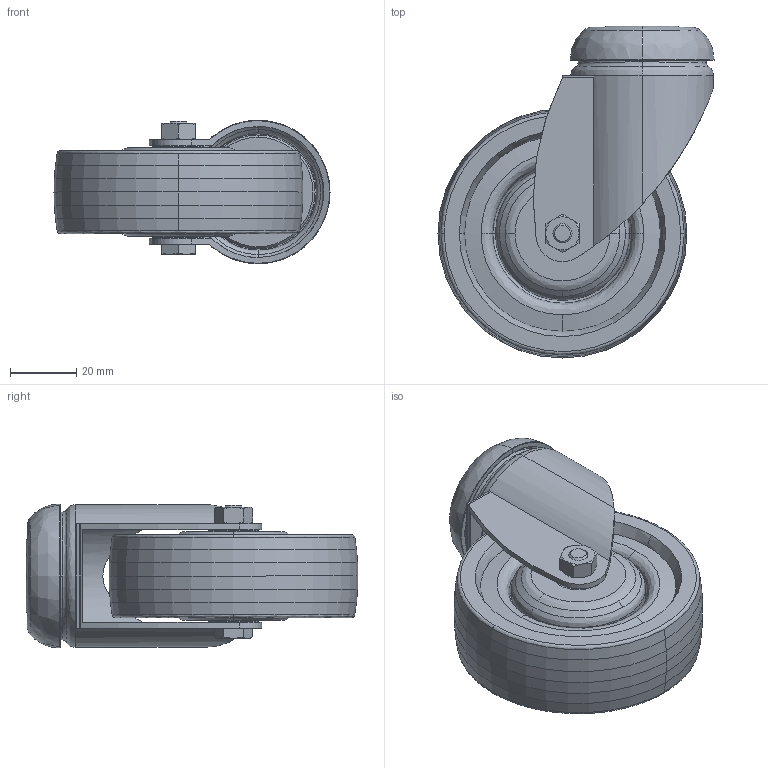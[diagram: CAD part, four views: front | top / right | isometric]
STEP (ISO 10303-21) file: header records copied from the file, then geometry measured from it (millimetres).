
FILE_DESCRIPTION (( 'STEP AP203' ), '1' );
FILE_NAME ('510120_Lenkrolle Ø75 mit Rückenloch Ø11 leitfähig.step', '2022-08-05T12:35:14', ( '' ), ( '' ), 'SwSTEP 2.0', 'SolidWorks 2021', '' );
FILE_SCHEMA (( 'CONFIG_CONTROL_DESIGN' ));
Length unit declared in the file: millimetre
Products named in the file (1): 510120_Lenkrolle Ø75 mit Rückenloch Ø11 leitfähig
Bounding box: 83.16 x 100 x 43.31 mm (x, y, z)
Volume: 107014.1 mm3; surface area: 45366.2 mm2
Topology: 2 solids, 2 shells, 267 faces, 641 edges, 402 vertices
Faces by surface type: bspline 89, cylinder 67, cone 60, plane 51
Entity records: 10670 total; most frequent: CARTESIAN_POINT 4525, DIRECTION 1333, ORIENTED_EDGE 1282, EDGE_CURVE 641, AXIS2_PLACEMENT_3D 591, CIRCLE 412, VERTEX_POINT 402, EDGE_LOOP 297
